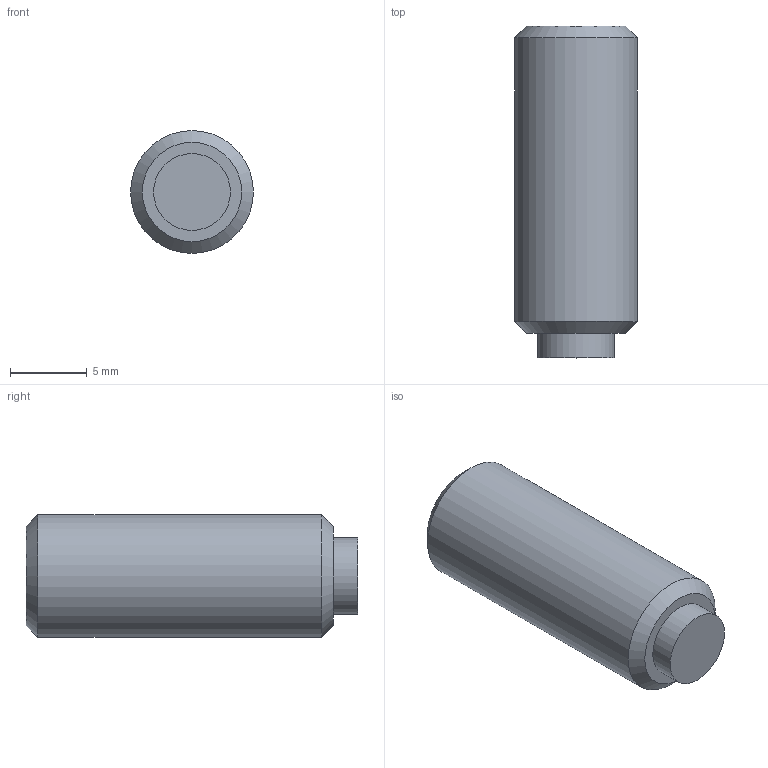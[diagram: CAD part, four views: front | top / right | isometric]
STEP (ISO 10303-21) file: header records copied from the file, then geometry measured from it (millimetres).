
FILE_DESCRIPTION( ( 'STEP AP203' ), '1' );
FILE_NAME( 'C:/Temp/Ganter_Step_05_03_2020/data/3_2/gn913_3/Grub screw GN 913.3-M8-20-KU.stp', '2020-03-13T05:35:38', ( 'License CC BY-ND 4.0' ), ( 'CADENAS' ), ' ', 'PARTsolutions', ' ' );
FILE_SCHEMA( ( 'CONFIG_CONTROL_DESIGN' ) );
Length unit declared in the file: millimetre
Products named in the file (1): _Grub screw GN 913.3-M8-20-KU
Bounding box: 8 x 21.6 x 8 mm (x, y, z)
Volume: 953.6 mm3; surface area: 673.5 mm2
Topology: 1 solids, 1 shells, 14 faces, 28 edges, 18 vertices
Faces by surface type: plane 10, cylinder 2, cone 2
Full cylindrical faces by diameter (mm): 5 x1, 8 x1
Entity records: 386 total; most frequent: DIRECTION 60, CARTESIAN_POINT 57, ORIENTED_EDGE 48, EDGE_CURVE 24, AXIS2_PLACEMENT_3D 21, EDGE_LOOP 20, VERTEX_POINT 18, LINE 18
